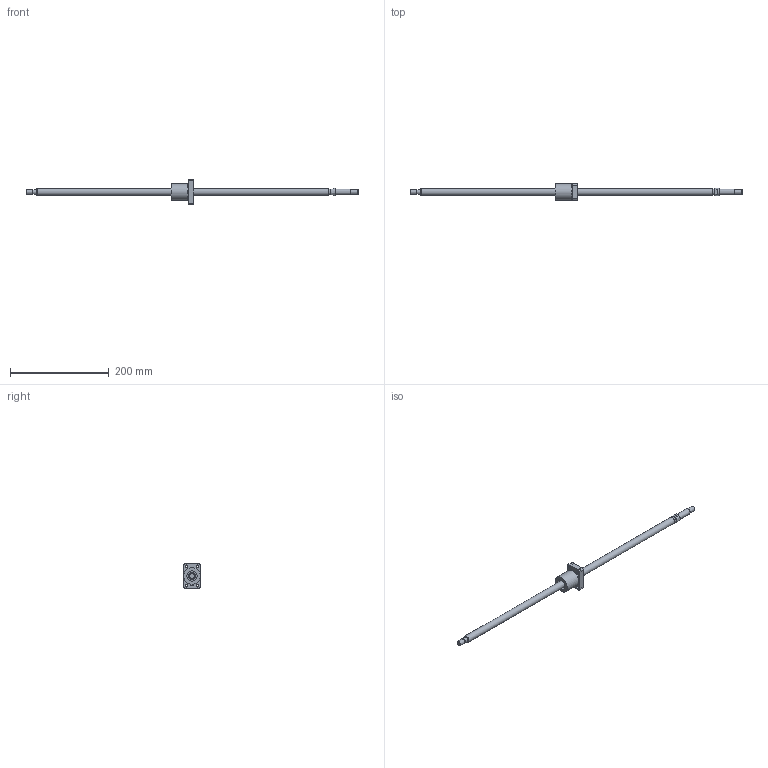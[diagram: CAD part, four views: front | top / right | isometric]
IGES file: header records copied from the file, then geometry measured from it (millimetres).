
Start section: Data from Parasolid IGES Translator 26.0.171, Copyright(c) 2006 Siemens PLM Software. All Rights Reserved.
Global section: file name: BNK1408-2.5RRG0+671LC5Y(317.50).igs; native system: By Siemens PLM Incorporated; preprocessor: XPlus GENERIC/IGES 26.0.171; author: Noname; organization: Noname; date: 20240709.091745; units: millimetre
Bounding box: 671 x 34 x 50 mm (x, y, z)
Surface area: 41158.4 mm2 (no closed solid volume)
Topology: 0 solids, 0 shells, 74 faces, 325 edges, 282 vertices
Faces by surface type: revolution 46, extrusion 28
